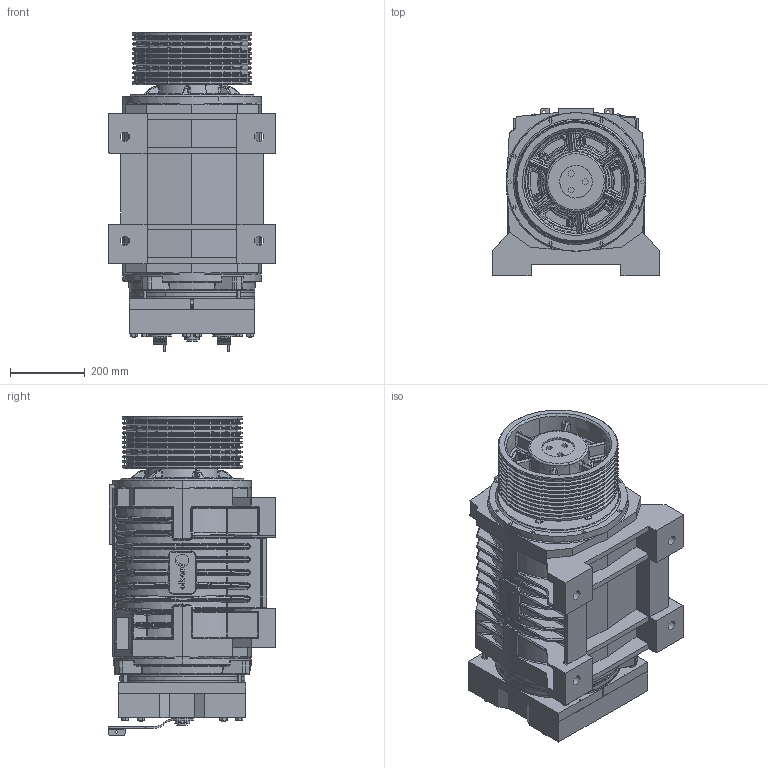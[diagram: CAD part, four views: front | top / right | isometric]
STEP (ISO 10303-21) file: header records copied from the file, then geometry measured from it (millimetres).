
FILE_DESCRIPTION (( 'STEP AP214' ), '1' );
FILE_NAME ('QS632275100.STEP', '2026-01-13T14:40:38', ( '' ), ( '' ), 'SwSTEP 2.0', 'SolidWorks 2023', '' );
FILE_SCHEMA (( 'AUTOMOTIVE_DESIGN' ));
Length unit declared in the file: millimetre
Products named in the file (1): QS632275100
Bounding box: 445.91 x 447.8 x 853.27 mm (x, y, z)
Topology: 63 solids, 66 shells, 4295 faces, 10186 edges, 6030 vertices
Faces by surface type: cylinder 1369, plane 1102, bspline 691, cone 461, sphere 360, torus 312
Entity records: 151744 total; most frequent: CARTESIAN_POINT 57196, ORIENTED_EDGE 19940, DIRECTION 19548, EDGE_CURVE 9970, AXIS2_PLACEMENT_3D 7991, VERTEX_POINT 5992, EDGE_LOOP 4660, CIRCLE 4386
